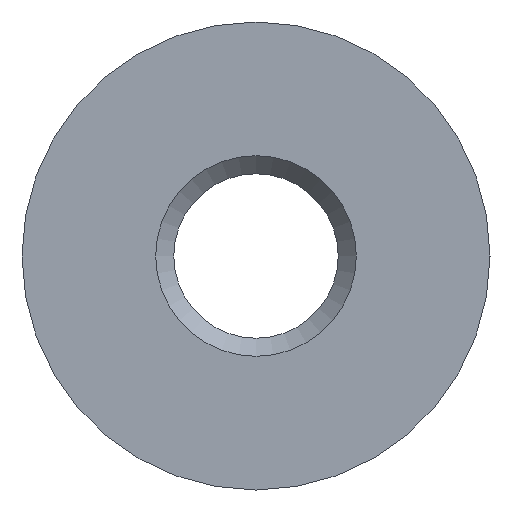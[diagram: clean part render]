
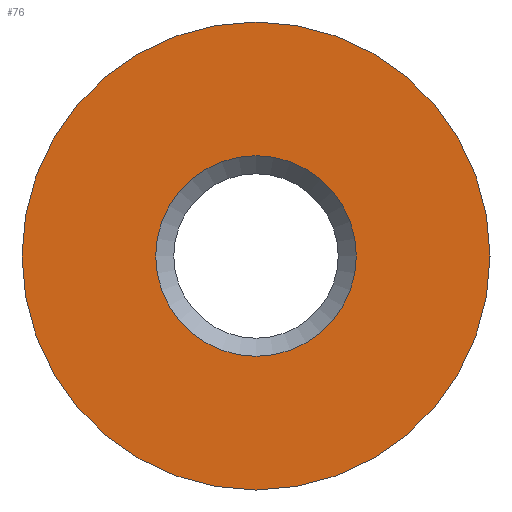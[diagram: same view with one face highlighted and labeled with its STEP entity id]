
A CAD part, front view. The second image highlights one B-rep face of the part: STEP entity #76.
In plain terms, the highlighted planar face has unit normal (0, -1, 0).
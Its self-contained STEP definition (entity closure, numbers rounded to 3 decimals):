
#76 = ADVANCED_FACE( '', ( #97, #98 ), #99, .F. );
#97 = FACE_BOUND( '', #142, .T. );
#98 = FACE_OUTER_BOUND( '', #143, .T. );
#99 = PLANE( '', #144 );
#142 = EDGE_LOOP( '', ( #193 ) );
#143 = EDGE_LOOP( '', ( #194 ) );
#144 = AXIS2_PLACEMENT_3D( '', #195, #196, #197 );
#193 = ORIENTED_EDGE( '', *, *, #319, .F. );
#194 = ORIENTED_EDGE( '', *, *, #320, .T. );
#195 = CARTESIAN_POINT( '', ( 7., 0., 0. ) );
#196 = DIRECTION( '', ( 0., 1., 0. ) );
#197 = DIRECTION( '', ( -1., 0., 0. ) );
#319 = EDGE_CURVE( '', #360, #360, #361, .T. );
#320 = EDGE_CURVE( '', #362, #362, #363, .T. );
#360 = VERTEX_POINT( '', #435 );
#361 = CIRCLE( '', #436, 3. );
#362 = VERTEX_POINT( '', #437 );
#363 = CIRCLE( '', #438, 7. );
#435 = CARTESIAN_POINT( '', ( 0., 0., -3. ) );
#436 = AXIS2_PLACEMENT_3D( '', #561, #562, #563 );
#437 = CARTESIAN_POINT( '', ( 7., 0., 0. ) );
#438 = AXIS2_PLACEMENT_3D( '', #564, #565, #566 );
#561 = CARTESIAN_POINT( '', ( 0., 0., 0. ) );
#562 = DIRECTION( '', ( 0., -1., 0. ) );
#563 = DIRECTION( '', ( 0., 0., -1. ) );
#564 = CARTESIAN_POINT( '', ( 0., 0., 0. ) );
#565 = DIRECTION( '', ( 0., -1., 0. ) );
#566 = DIRECTION( '', ( 1., 0., 0. ) );
